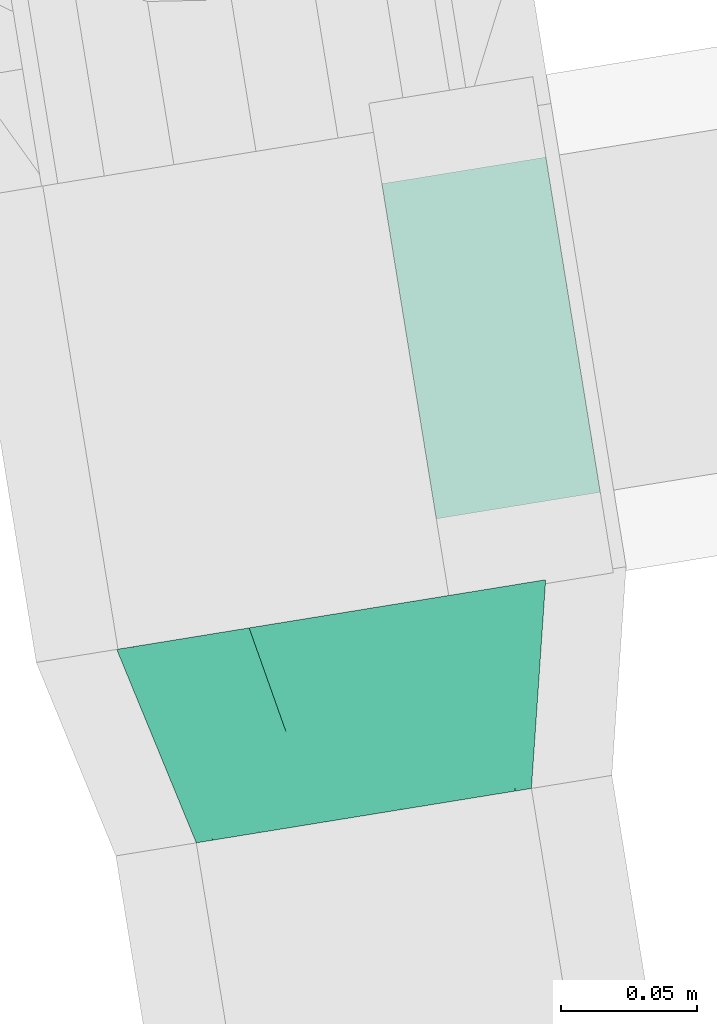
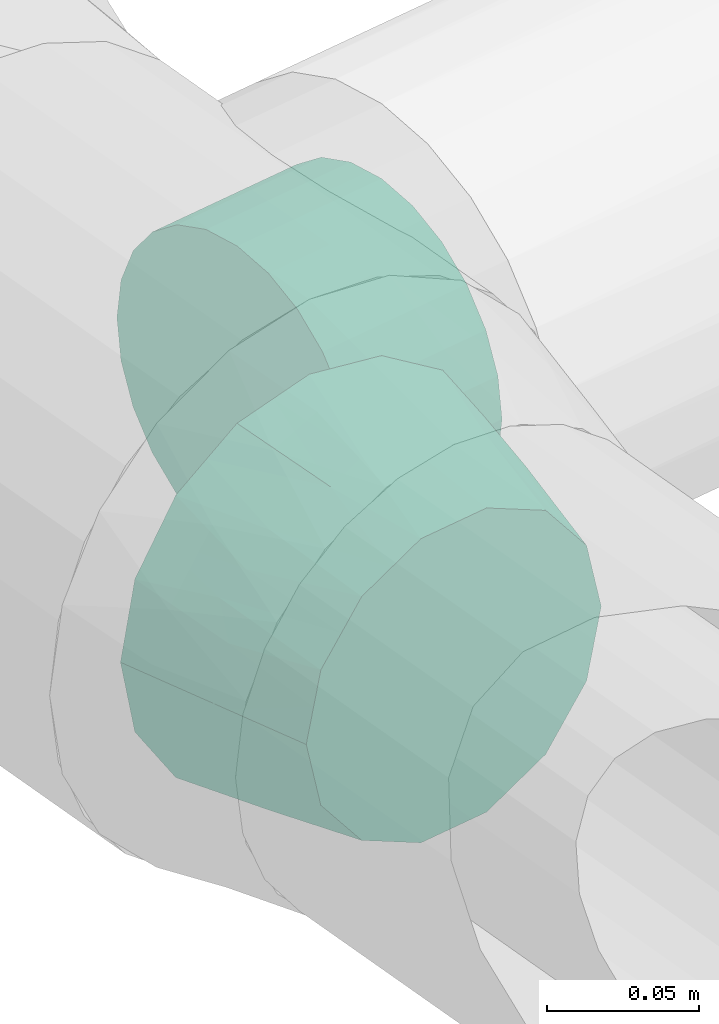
# One storey, part 35 of 39: 2 flow fittings.
"""IFC2X3 building model written with IfcOpenShell, lengths in millimetres."""

from ifc_helpers import new_model, entity, si_unit, converted_unit, derived_unit, direction, frame, origin, origin_with_axes, place, context, subcontext, project, spatial, faceted_brep, source, transform, mapped, material, type_object, element, save


model = new_model("IFC2X3")

# Units and contexts
model_context = context("Model", 3, precision=0.01, world=origin(), true_north=direction((6.12323399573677e-17, 1.0)))
plan_context = context("Plan", 3, precision=1e-05, world=origin_with_axes())
body_context = subcontext(model_context, "Body", "Model", "MODEL_VIEW")
ifc_project = project(units=[converted_unit("PLANEANGLEUNIT", "DEGREE", entity("IfcPositiveLengthMeasure", 0.0174532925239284), si_unit("PLANEANGLEUNIT", "RADIAN"), dimensions=[0, 0, 0, 0, 0, 0, 0]), si_unit("AREAUNIT", "SQUARE_METRE"), si_unit("LENGTHUNIT", "METRE", prefix="MILLI"), si_unit("MASSUNIT", "GRAM", prefix="KILO"), si_unit("POWERUNIT", "WATT"), si_unit("PRESSUREUNIT", "PASCAL", prefix="KILO"), si_unit("FORCEUNIT", "NEWTON", prefix="KILO"), si_unit("ELECTRICVOLTAGEUNIT", "VOLT"), si_unit("ELECTRICCURRENTUNIT", "AMPERE"), si_unit("THERMODYNAMICTEMPERATUREUNIT", "DEGREE_CELSIUS"), si_unit("TIMEUNIT", "SECOND"), si_unit("VOLUMEUNIT", "CUBIC_METRE"), derived_unit("LINEARVELOCITYUNIT", [(si_unit("LENGTHUNIT", "METRE"), 1), (si_unit("TIMEUNIT", "SECOND"), -1)]), derived_unit("VOLUMETRICFLOWRATEUNIT", [(si_unit("VOLUMEUNIT", "CUBIC_METRE"), 1), (si_unit("TIMEUNIT", "SECOND"), -1)]), derived_unit("THERMALTRANSMITTANCEUNIT", [(si_unit("POWERUNIT", "WATT"), 1), (si_unit("THERMODYNAMICTEMPERATUREUNIT", "KELVIN"), -1), (si_unit("AREAUNIT", "SQUARE_METRE"), -1)]), derived_unit("SOUNDPRESSUREUNIT", [(si_unit("PRESSUREUNIT", "PASCAL"), 1)])], contexts=[model_context, plan_context])

# Site, building, storey
site_placement = place(None, frame((-0.00071070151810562, 0.00438415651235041, 0.0), z_axis=(0.0, 0.0, 1.0), x_axis=(-0.160236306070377, 0.987078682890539, 0.0)))
site = spatial("IfcSite", under=ifc_project, at=site_placement, Name="Default", CompositionType="ELEMENT")
building_placement = place(site_placement, origin_with_axes())
building = spatial("IfcBuilding", under=site, at=building_placement, CompositionType="ELEMENT")
storey_placement = place(building_placement, frame((0.0, 0.0, 50999.9999999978), z_axis=(0.0, 0.0, 1.0), x_axis=(1.0, 0.0, 0.0)))
storey = spatial("IfcBuildingStorey", under=building, at=storey_placement, Name="Nivå D", CompositionType="ELEMENT", Elevation=50999.9999999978)

# Flow fittings
ifc_material_1 = material(Name="<Unnamed>")
duct_fitting_type_1 = type_object("IfcDuctFittingType", Name="magicirc_tapoutlet_1:magicirc_tapoutlet_001", PredefinedType="NOTDEFINED", material=ifc_material_1)
shared_shape_1 = source(origin(), body_context, "Body", "Brep", [
    faceted_brep([(-36.1628273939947, 0.0, -62.500000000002), (-36.1628273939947, -16.1761903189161, -60.3703641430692), (-36.1628273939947, -31.2500000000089, -54.1265877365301), (-36.1628273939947, -44.1941738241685, -44.194173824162), (-36.1628273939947, -54.126587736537, -31.2500000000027), (-36.1628273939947, -60.3703641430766, -16.1761903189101), (-36.1628273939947, -62.5000000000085, 0.0), (-36.1628273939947, -60.3703641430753, 16.176190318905), (-36.1628273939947, -54.1265877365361, 31.2499999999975), (-36.1628273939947, -44.194173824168, 44.1941738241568), (-36.1628273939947, -31.2500000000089, 54.126587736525), (-36.1628273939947, -16.1761903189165, 60.3703641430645), (-36.1628273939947, 0.0, 62.4999999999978), (-36.1628273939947, 16.1761903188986, 60.3703641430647), (-36.1628273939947, 31.249999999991, 54.1265877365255), (-36.1628273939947, 44.1941738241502, 44.1941738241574), (-36.1628273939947, 54.1265877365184, 31.2499999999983), (-36.1628273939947, 60.3703641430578, 16.176190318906), (-36.1628273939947, 62.4999999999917, 0.0), (-36.1628273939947, 60.3703641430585, -16.1761903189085), (-36.1628273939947, 54.1265877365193, -31.2500000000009), (-36.1628273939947, 44.1941738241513, -44.1941738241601), (-36.1628273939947, 31.2499999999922, -54.1265877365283), (-36.1628273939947, 16.1761903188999, -60.3703641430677), (0.0, 0.0, 62.4999999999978), (25.0, 0.0, 62.4999999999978), (25.0, 16.1761903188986, 60.3703641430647), (0.0, 16.1761903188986, 60.3703641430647), (25.0, 31.249999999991, 54.1265877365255), (0.0, 31.249999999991, 54.1265877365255), (25.0, 44.1941738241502, 44.1941738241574), (0.0, 44.1941738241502, 44.1941738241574), (0.0, 54.1265877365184, 31.2499999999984), (25.0, 54.1265877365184, 31.2499999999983), (25.0, 60.3703641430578, 16.176190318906), (0.0, 60.3703641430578, 16.176190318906), (25.0, 62.4999999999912, 0.0), (0.0, 62.4999999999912, 0.0), (25.0, 60.3703641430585, -16.1761903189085), (0.0, 60.3703641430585, -16.1761903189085), (25.0, 54.1265877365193, -31.2500000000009), (0.0, 54.1265877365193, -31.2500000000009), (25.0, 44.1941738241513, -44.1941738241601), (0.0, 44.1941738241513, -44.1941738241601), (0.0, 31.2499999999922, -54.1265877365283), (25.0, 31.2499999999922, -54.1265877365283), (25.0, 16.1761903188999, -60.3703641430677), (0.0, 16.1761903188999, -60.3703641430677), (25.0, 0.0, -62.5000000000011), (0.0, 0.0, -62.5000000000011), (25.0, -16.1761903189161, -60.3703641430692), (0.0, -16.1761903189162, -60.3703641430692), (25.0, -31.2500000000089, -54.1265877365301), (0.0, -31.2500000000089, -54.1265877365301), (25.0, -44.1941738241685, -44.194173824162), (0.0, -44.1941738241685, -44.194173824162), (0.0, -54.126587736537, -31.2500000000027), (25.0, -54.126587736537, -31.2500000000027), (25.0, -60.3703641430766, -16.1761903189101), (0.0, -60.3703641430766, -16.17619031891), (25.0, -62.5000000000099, 0.0), (0.0, -62.5000000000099, 0.0), (25.0, -60.3703641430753, 16.176190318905), (0.0, -60.3703641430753, 16.176190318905), (25.0, -54.1265877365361, 31.2499999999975), (0.0, -54.1265877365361, 31.2499999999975), (25.0, -44.194173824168, 44.1941738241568), (0.0, -44.194173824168, 44.1941738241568), (0.0, -31.2500000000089, 54.126587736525), (25.0, -31.2500000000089, 54.126587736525), (25.0, -16.1761903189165, 60.3703641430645), (0.0, -16.1761903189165, 60.3703641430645)], [[[0, 1, 2, 3, 4, 5, 6, 7, 8, 9, 10, 11, 12, 13, 14, 15, 16, 17, 18, 19, 20, 21, 22, 23]], [[12, 24, 25, 26, 27, 13]], [[13, 27, 26, 28, 29, 14]], [[14, 29, 28, 30, 31, 15]], [[16, 32, 33, 34, 35, 17]], [[17, 35, 34, 36, 37, 18]], [[15, 31, 30, 33, 32, 16]], [[18, 37, 36, 38, 39, 19]], [[19, 39, 38, 40, 41, 20]], [[20, 41, 40, 42, 43, 21]], [[22, 44, 45, 46, 47, 23]], [[23, 47, 46, 48, 49, 0]], [[21, 43, 42, 45, 44, 22]], [[0, 49, 48, 50, 51, 1]], [[1, 51, 50, 52, 53, 2]], [[2, 53, 52, 54, 55, 3]], [[4, 56, 57, 58, 59, 5]], [[6, 5, 59, 58, 60, 61]], [[3, 55, 54, 57, 56, 4]], [[6, 61, 60, 62, 63, 7]], [[7, 63, 62, 64, 65, 8]], [[8, 65, 64, 66, 67, 9]], [[10, 68, 69, 70, 71, 11]], [[11, 71, 70, 25, 24, 12]], [[9, 67, 66, 69, 68, 10]], [[46, 45, 42, 40, 38, 36, 34, 33, 30, 28, 26, 25, 70, 69, 66, 64, 62, 60, 58, 57, 54, 52, 50, 48]]]),
    faceted_brep([(25.0, 16.1761903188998, -60.3703641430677), (25.0, 31.2499999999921, -54.1265877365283), (25.0, 44.1941738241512, -44.1941738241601), (25.0, 54.1265877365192, -31.2500000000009), (25.0, 60.3703641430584, -16.1761903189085), (25.0, 62.4999999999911, 0.0), (25.0, 60.3703641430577, 16.176190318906), (25.0, 54.1265877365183, 31.2499999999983), (25.0, 44.1941738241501, 44.1941738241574), (25.0, 31.2499999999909, 54.1265877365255), (25.0, 16.1761903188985, 60.3703641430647), (25.0, 0.0, 62.4999999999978), (25.0, -16.1761903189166, 60.3703641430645), (25.0, -31.250000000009, 54.126587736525), (25.0, -44.1941738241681, 44.1941738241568), (25.0, -54.1265877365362, 31.2499999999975), (25.0, -60.3703641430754, 16.176190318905), (25.0, -62.50000000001, 0.0), (25.0, -60.3703641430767, -16.1761903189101), (25.0, -54.1265877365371, -31.2500000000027), (25.0, -44.1941738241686, -44.194173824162), (25.0, -31.250000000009, -54.1265877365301), (25.0, -16.1761903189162, -60.3703641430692), (25.0, 0.0, -62.5000000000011), (0.0, 0.0, 62.4999999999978), (0.0, 16.1761903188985, 60.3703641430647), (-36.1628273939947, 16.1761903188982, 60.3703641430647), (-36.1628273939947, 0.0, 62.4999999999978), (0.0, 31.2499999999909, 54.1265877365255), (-36.1628273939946, 31.2499999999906, 54.1265877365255), (0.0, 44.1941738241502, 44.1941738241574), (-36.1628273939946, 44.1941738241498, 44.1941738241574), (0.0, 54.1265877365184, 31.2499999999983), (0.0, 60.3703641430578, 16.176190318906), (-36.1628273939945, 60.3703641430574, 16.176190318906), (-36.1628273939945, 54.126587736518, 31.2499999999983), (0.0, 62.4999999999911, 0.0), (-36.1628273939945, 62.4999999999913, 0.0), (0.0, 60.3703641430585, -16.1761903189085), (-36.1628273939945, 60.3703641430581, -16.1761903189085), (0.0, 54.1265877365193, -31.2500000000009), (-36.1628273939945, 54.1265877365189, -31.2500000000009), (0.0, 44.1941738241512, -44.1941738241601), (-36.1628273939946, 44.1941738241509, -44.1941738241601), (0.0, 31.2499999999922, -54.1265877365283), (0.0, 16.1761903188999, -60.3703641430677), (-36.1628273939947, 16.1761903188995, -60.3703641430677), (-36.1628273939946, 31.2499999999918, -54.1265877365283), (0.0, 0.0, -62.5000000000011), (-36.1628273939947, 0.0, -62.500000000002), (0.0, -16.1761903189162, -60.3703641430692), (-36.1628273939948, -16.1761903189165, -60.3703641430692), (0.0, -31.250000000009, -54.1265877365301), (-36.1628273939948, -31.2500000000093, -54.1265877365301), (0.0, -44.1941738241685, -44.194173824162), (-36.1628273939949, -44.1941738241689, -44.194173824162), (0.0, -54.126587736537, -31.2500000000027), (0.0, -60.3703641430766, -16.1761903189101), (-36.1628273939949, -60.370364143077, -16.1761903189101), (-36.1628273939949, -54.1265877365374, -31.2500000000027), (0.0, -62.50000000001, 0.0), (-36.1628273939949, -62.5000000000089, 0.0), (0.0, -60.3703641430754, 16.176190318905), (-36.1628273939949, -60.3703641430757, 16.176190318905), (0.0, -54.1265877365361, 31.2499999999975), (-36.1628273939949, -54.1265877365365, 31.2499999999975), (0.0, -44.194173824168, 44.1941738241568), (-36.1628273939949, -44.1941738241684, 44.1941738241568), (0.0, -31.2500000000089, 54.126587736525), (0.0, -16.1761903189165, 60.3703641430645), (-36.1628273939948, -16.1761903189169, 60.3703641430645), (-36.1628273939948, -31.2500000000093, 54.126587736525)], [[[0, 1, 2, 3, 4, 5, 6, 7, 8, 9, 10, 11, 12, 13, 14, 15, 16, 17, 18, 19, 20, 21, 22, 23]], [[24, 11, 10, 25, 26, 27]], [[25, 10, 9, 28, 29, 26]], [[28, 9, 8, 30, 31, 29]], [[32, 7, 6, 33, 34, 35]], [[33, 6, 5, 36, 37, 34]], [[30, 8, 7, 32, 35, 31]], [[36, 5, 4, 38, 39, 37]], [[38, 4, 3, 40, 41, 39]], [[40, 3, 2, 42, 43, 41]], [[44, 1, 0, 45, 46, 47]], [[45, 0, 23, 48, 49, 46]], [[42, 2, 1, 44, 47, 43]], [[48, 23, 22, 50, 51, 49]], [[50, 22, 21, 52, 53, 51]], [[52, 21, 20, 54, 55, 53]], [[56, 19, 18, 57, 58, 59]], [[57, 18, 17, 60, 61, 58]], [[54, 20, 19, 56, 59, 55]], [[60, 17, 16, 62, 63, 61]], [[62, 16, 15, 64, 65, 63]], [[64, 15, 14, 66, 67, 65]], [[68, 13, 12, 69, 70, 71]], [[69, 12, 11, 24, 27, 70]], [[66, 14, 13, 68, 71, 67]], [[49, 51, 53, 55, 59, 58, 61, 63, 65, 67, 71, 70, 27, 26, 29, 31, 35, 34, 37, 39, 41, 43, 47, 46]]]),
    faceted_brep([(-36.1628273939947, 0.0, -62.500000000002), (-36.1628273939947, -16.1761903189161, -60.3703641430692), (-36.1628273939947, -31.2500000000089, -54.1265877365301), (-36.1628273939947, -44.1941738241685, -44.194173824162), (-36.1628273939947, -54.126587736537, -31.2500000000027), (-36.1628273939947, -60.3703641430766, -16.1761903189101), (-36.1628273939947, -62.5000000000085, 0.0), (-36.1628273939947, -60.3703641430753, 16.176190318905), (-36.1628273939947, -54.1265877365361, 31.2499999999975), (-36.1628273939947, -44.194173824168, 44.1941738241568), (-36.1628273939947, -31.2500000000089, 54.126587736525), (-36.1628273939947, -16.1761903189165, 60.3703641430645), (-36.1628273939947, 0.0, 62.4999999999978), (-36.1628273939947, 16.1761903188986, 60.3703641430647), (-36.1628273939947, 31.249999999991, 54.1265877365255), (-36.1628273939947, 44.1941738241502, 44.1941738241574), (-36.1628273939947, 54.1265877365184, 31.2499999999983), (-36.1628273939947, 60.3703641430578, 16.176190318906), (-36.1628273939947, 62.4999999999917, 0.0), (-36.1628273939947, 60.3703641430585, -16.1761903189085), (-36.1628273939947, 54.1265877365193, -31.2500000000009), (-36.1628273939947, 44.1941738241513, -44.1941738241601), (-36.1628273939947, 31.2499999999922, -54.1265877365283), (-36.1628273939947, 16.1761903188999, -60.3703641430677), (0.0, 0.0, 62.4999999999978), (25.0, 0.0, 62.4999999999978), (25.0, 16.1761903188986, 60.3703641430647), (0.0, 16.1761903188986, 60.3703641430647), (25.0, 31.249999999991, 54.1265877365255), (0.0, 31.249999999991, 54.1265877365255), (25.0, 44.1941738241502, 44.1941738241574), (0.0, 44.1941738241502, 44.1941738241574), (0.0, 54.1265877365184, 31.2499999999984), (25.0, 54.1265877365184, 31.2499999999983), (25.0, 60.3703641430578, 16.176190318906), (0.0, 60.3703641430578, 16.176190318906), (25.0, 62.4999999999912, 0.0), (0.0, 62.4999999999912, 0.0), (25.0, 60.3703641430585, -16.1761903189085), (0.0, 60.3703641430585, -16.1761903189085), (25.0, 54.1265877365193, -31.2500000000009), (0.0, 54.1265877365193, -31.2500000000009), (25.0, 44.1941738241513, -44.1941738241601), (0.0, 44.1941738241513, -44.1941738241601), (0.0, 31.2499999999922, -54.1265877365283), (25.0, 31.2499999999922, -54.1265877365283), (25.0, 16.1761903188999, -60.3703641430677), (0.0, 16.1761903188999, -60.3703641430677), (25.0, 0.0, -62.5000000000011), (0.0, 0.0, -62.5000000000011), (25.0, -16.1761903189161, -60.3703641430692), (0.0, -16.1761903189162, -60.3703641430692), (25.0, -31.2500000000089, -54.1265877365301), (0.0, -31.2500000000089, -54.1265877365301), (25.0, -44.1941738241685, -44.194173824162), (0.0, -44.1941738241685, -44.194173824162), (0.0, -54.126587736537, -31.2500000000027), (25.0, -54.126587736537, -31.2500000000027), (25.0, -60.3703641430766, -16.1761903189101), (0.0, -60.3703641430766, -16.17619031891), (25.0, -62.5000000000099, 0.0), (0.0, -62.5000000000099, 0.0), (25.0, -60.3703641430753, 16.176190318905), (0.0, -60.3703641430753, 16.176190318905), (25.0, -54.1265877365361, 31.2499999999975), (0.0, -54.1265877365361, 31.2499999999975), (25.0, -44.194173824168, 44.1941738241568), (0.0, -44.194173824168, 44.1941738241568), (0.0, -31.2500000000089, 54.126587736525), (25.0, -31.2500000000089, 54.126587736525), (25.0, -16.1761903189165, 60.3703641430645), (0.0, -16.1761903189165, 60.3703641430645)], [[[0, 1, 2, 3, 4, 5, 6, 7, 8, 9, 10, 11, 12, 13, 14, 15, 16, 17, 18, 19, 20, 21, 22, 23]], [[12, 24, 25, 26, 27, 13]], [[13, 27, 26, 28, 29, 14]], [[14, 29, 28, 30, 31, 15]], [[16, 32, 33, 34, 35, 17]], [[17, 35, 34, 36, 37, 18]], [[15, 31, 30, 33, 32, 16]], [[18, 37, 36, 38, 39, 19]], [[19, 39, 38, 40, 41, 20]], [[20, 41, 40, 42, 43, 21]], [[22, 44, 45, 46, 47, 23]], [[23, 47, 46, 48, 49, 0]], [[21, 43, 42, 45, 44, 22]], [[0, 49, 48, 50, 51, 1]], [[1, 51, 50, 52, 53, 2]], [[2, 53, 52, 54, 55, 3]], [[4, 56, 57, 58, 59, 5]], [[6, 5, 59, 58, 60, 61]], [[3, 55, 54, 57, 56, 4]], [[6, 61, 60, 62, 63, 7]], [[7, 63, 62, 64, 65, 8]], [[8, 65, 64, 66, 67, 9]], [[10, 68, 69, 70, 71, 11]], [[11, 71, 70, 25, 24, 12]], [[9, 67, 66, 69, 68, 10]], [[46, 45, 42, 40, 38, 36, 34, 33, 30, 28, 26, 25, 70, 69, 66, 64, 62, 60, 58, 57, 54, 52, 50, 48]]]),
])
flow_fitting_1_placement = place(storey_placement, frame((779024.265974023, -590489.981738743, 2900.00061001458), z_axis=(-2.11641321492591e-22, -7.62518221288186e-06, -0.999999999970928), x_axis=(0.0, -0.999999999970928, 7.62518221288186e-06)))
element("IfcFlowFitting", 1, at=flow_fitting_1_placement, inside=storey, type_object=duct_fitting_type_1, material=ifc_material_1, Name="magicirc_tapoutlet_1:magicirc_tapoutlet_001", ObjectType="magicirc_tapoutlet_1:magicirc_tapoutlet_001", context=body_context, shape_type="MappedRepresentation", body=[
    mapped(shared_shape_1, transform((0.0, 0.0, 0.0), scale=1.0)),
])
ifc_material_2 = material(Name="Material_Duct")
duct_fitting_type_2 = type_object("IfcDuctFittingType", Name="magicirc_reduction_001:magicirc_reduction_001", PredefinedType="NOTDEFINED", material=ifc_material_2)
shared_shape_2 = source(origin(), body_context, "Body", "Brep", [
    faceted_brep([(75.0, 56.5685424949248, 56.5684983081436), (75.0, 43.5916085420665, 65.2394083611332), (75.0, 30.6146745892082, 73.9103184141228), (75.0, 15.3073372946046, 76.9551371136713), (75.0, 0.0, 79.9999558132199), (75.0, -15.3073372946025, 76.9551371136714), (75.0, -30.6146745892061, 73.9103184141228), (75.0, -43.5916085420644, 65.2394083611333), (75.0, -56.5685424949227, 56.5684983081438), (75.0, -65.2394525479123, 43.5915643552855), (75.0, -73.9103626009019, 30.6146304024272), (75.0, -76.9551813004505, 15.3072931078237), (75.0, -80.0, -4.41867798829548e-05), (75.0, -77.4365944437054, -12.88715417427), (75.0, -73.9103626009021, -30.6147187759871), (75.0, -65.2394525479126, -43.5916527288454), (75.0, -56.5685424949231, -56.5685866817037), (75.0, -43.5916085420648, -65.2394967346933), (75.0, -30.6146745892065, -73.910406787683), (75.0, -15.307337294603, -76.9552254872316), (75.0, 0.0, -80.0000441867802), (75.0, 15.3073372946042, -76.9552254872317), (75.0, 30.6146745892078, -73.9104067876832), (75.0, 43.5916085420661, -65.2394967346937), (75.0, 56.5685424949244, -56.5685866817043), (75.0, 65.2394525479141, -43.591652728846), (75.0, 73.9103626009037, -30.6147187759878), (75.0, 76.9551813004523, -15.3073814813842), (75.0, 80.0, -4.4186780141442e-05), (75.0, 77.4365941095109, 12.8870674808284), (75.0, 73.9103626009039, 30.614630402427), (75.0, 65.2394525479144, 43.5915643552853), (0.0, -56.3105542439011, 27.1177336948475), (0.0, -47.6393334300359, 37.9911006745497), (0.0, -38.9681126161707, 48.8644676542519), (0.0, -26.4378354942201, 54.8987310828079), (0.0, -13.9075583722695, 60.9329945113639), (0.0, 0.0, 60.9329945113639), (0.0, 13.9075583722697, 60.9329945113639), (0.0, 26.4378354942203, 54.8987310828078), (0.0, 38.9681126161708, 48.8644676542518), (0.0, 47.639333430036, 37.9911006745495), (0.0, 56.3105542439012, 27.1177336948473), (0.0, 59.4052771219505, 13.5588668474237), (0.0, 62.4999999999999, 0.0), (0.0, 59.4052771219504, -13.5588668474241), (0.0, 56.310554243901, -27.1177336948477), (0.0, 47.6393334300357, -37.9911006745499), (0.0, 38.9681126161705, -48.8644676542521), (0.0, 26.4378354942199, -54.898731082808), (0.0, 13.9075583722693, -60.932994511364), (0.0, 0.0, -60.9329945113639), (0.0, -13.9075583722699, -60.9329945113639), (0.0, -26.4378354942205, -54.8987310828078), (0.0, -38.968112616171, -48.8644676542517), (0.0, -47.6393334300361, -37.9911006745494), (0.0, -56.3105542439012, -27.1177336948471), (0.0, -59.4052771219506, -13.5588668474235), (0.0, -62.4999999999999, 0.0), (0.0, -59.4052771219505, 13.5588668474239), (35.1463127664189, -66.7333127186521, -23.3510161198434), (31.9655456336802, -69.9586273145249, -1.88327269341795e-05), (39.8536740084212, -55.5015240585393, -45.5489488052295), (43.9988065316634, -63.5214505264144, -35.4961182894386), (37.5, -71.2499999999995, -2.20933898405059e-05), (37.5791154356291, -8.02961381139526, -70.8147009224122), (35.1463248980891, -23.3509963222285, -66.7333361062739), (40.6180032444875, -44.8976067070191, -56.2580929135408), (37.5000002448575, 7.97746922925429, -70.8020170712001), (42.0253296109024, 55.8961258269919, -45.8668730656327), (39.4613959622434, 63.2405093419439, -33.8027797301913), (43.4407292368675, 35.0932745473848, -63.5962149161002), (40.1747644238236, 69.1407117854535, -19.6329018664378), (36.1890719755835, 22.5974235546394, -67.2489927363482), (39.8536752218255, 45.5489245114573, -55.5015485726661), (37.5, 71.2500000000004, -2.20933905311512e-05), (31.965549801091, 69.9586282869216, -1.88327296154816e-05), (35.1463127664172, 66.7333127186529, 23.3509747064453), (39.8536740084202, 55.50152405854, 45.548901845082), (43.9988065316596, 63.5214505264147, 35.4960664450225), (37.579115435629, 8.02961381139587, 70.8146566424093), (35.1463248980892, 23.350996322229, 66.7332946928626), (40.6180032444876, 44.8976067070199, 56.2580450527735), (37.5000002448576, -7.97746922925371, 70.8019728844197), (42.0253296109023, -55.896125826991, 45.8668235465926), (39.4613959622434, -63.240509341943, 33.8027332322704), (43.4407292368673, -35.0932745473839, 63.5961637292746), (40.1747644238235, -69.1407117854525, 19.6328545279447), (36.1890719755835, -22.5974235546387, 67.248950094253), (39.8536752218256, -45.5489245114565, 55.501501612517)], [[[0, 1, 2, 3, 4, 5, 6, 7, 8, 9, 10, 11, 12, 13, 14, 15, 16, 17, 18, 19, 20, 21, 22, 23, 24, 25, 26, 27, 28, 29, 30, 31]], [[32, 33, 34, 35, 36, 37, 38, 39, 40, 41, 42, 43, 44, 45, 46, 47, 48, 49, 50, 51, 52, 53, 54, 55, 56, 57, 58, 59]], [[60, 13, 61]], [[62, 16, 15]], [[62, 15, 63]], [[13, 12, 64, 61]], [[65, 52, 51]], [[66, 53, 52]], [[56, 60, 57]], [[60, 61, 57]], [[61, 58, 57]], [[63, 14, 60]], [[67, 16, 62]], [[55, 62, 63]], [[65, 19, 66]], [[13, 60, 14]], [[14, 63, 15]], [[50, 68, 51]], [[69, 47, 70]], [[53, 66, 67]], [[22, 71, 23]], [[46, 72, 70]], [[62, 54, 67]], [[68, 20, 65]], [[71, 49, 48]], [[26, 25, 70]], [[66, 17, 67]], [[67, 54, 53]], [[70, 72, 26]], [[54, 62, 55]], [[65, 66, 52]], [[68, 65, 51]], [[19, 18, 66]], [[56, 55, 63]], [[73, 68, 50]], [[73, 21, 68]], [[48, 74, 71]], [[74, 24, 23]], [[73, 50, 49]], [[73, 71, 22]], [[74, 23, 71]], [[74, 48, 47]], [[69, 24, 74]], [[70, 47, 46]], [[70, 25, 69]], [[46, 45, 72]], [[72, 75, 27]], [[45, 75, 72]], [[24, 69, 25]], [[47, 69, 74]], [[17, 66, 18]], [[17, 16, 67]], [[27, 26, 72]], [[49, 71, 73]], [[65, 20, 19]], [[21, 73, 22]], [[21, 20, 68]], [[56, 63, 60]], [[45, 44, 76, 75]], [[28, 27, 75]], [[77, 29, 76]], [[78, 0, 31]], [[78, 31, 79]], [[29, 28, 75, 76]], [[80, 38, 37]], [[81, 39, 38]], [[42, 77, 43]], [[77, 76, 43]], [[76, 44, 43]], [[79, 30, 77]], [[82, 0, 78]], [[41, 78, 79]], [[80, 3, 81]], [[29, 77, 30]], [[30, 79, 31]], [[36, 83, 37]], [[84, 33, 85]], [[39, 81, 82]], [[6, 86, 7]], [[32, 87, 85]], [[78, 40, 82]], [[83, 4, 80]], [[86, 35, 34]], [[10, 9, 85]], [[81, 1, 82]], [[82, 40, 39]], [[85, 87, 10]], [[40, 78, 41]], [[80, 81, 38]], [[83, 80, 37]], [[3, 2, 81]], [[42, 41, 79]], [[88, 83, 36]], [[88, 5, 83]], [[34, 89, 86]], [[89, 8, 7]], [[88, 36, 35]], [[88, 86, 6]], [[89, 7, 86]], [[89, 34, 33]], [[84, 8, 89]], [[85, 33, 32]], [[85, 9, 84]], [[32, 59, 87]], [[87, 64, 11]], [[59, 64, 87]], [[8, 84, 9]], [[33, 84, 89]], [[1, 81, 2]], [[1, 0, 82]], [[11, 10, 87]], [[35, 86, 88]], [[80, 4, 3]], [[5, 88, 6]], [[5, 4, 83]], [[42, 79, 77]], [[59, 58, 61, 64]], [[12, 11, 64]]]),
])
flow_fitting_2_placement = place(storey_placement, frame((778858.19592629, -590409.98173883, 2899.99776606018), z_axis=(0.0, 0.0, 1.0), x_axis=(1.0, 0.0, 0.0)))
element("IfcFlowFitting", 2, at=flow_fitting_2_placement, inside=storey, type_object=duct_fitting_type_2, material=ifc_material_2, Name="magicirc_reduction_001:magicirc_reduction_001", ObjectType="magicirc_reduction_001:magicirc_reduction_001", context=body_context, shape_type="MappedRepresentation", body=[
    mapped(shared_shape_2, transform((0.0, 0.0, 0.0), scale=1.0)),
])

save(model, "model.ifc")
